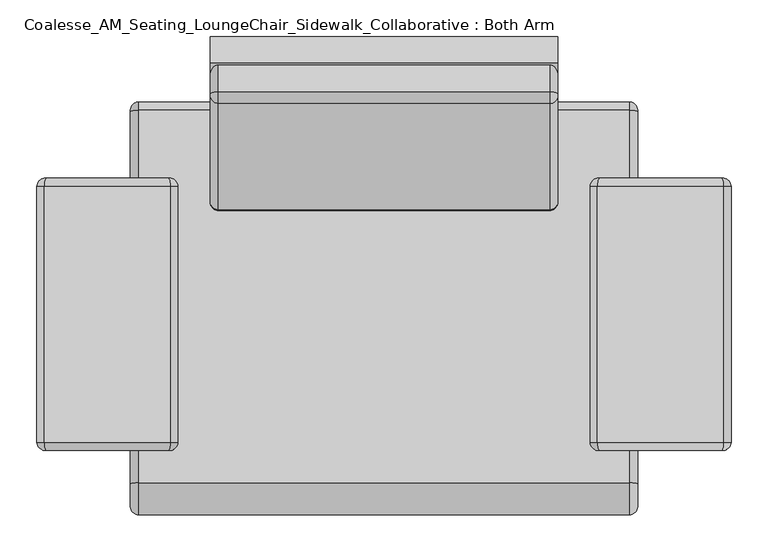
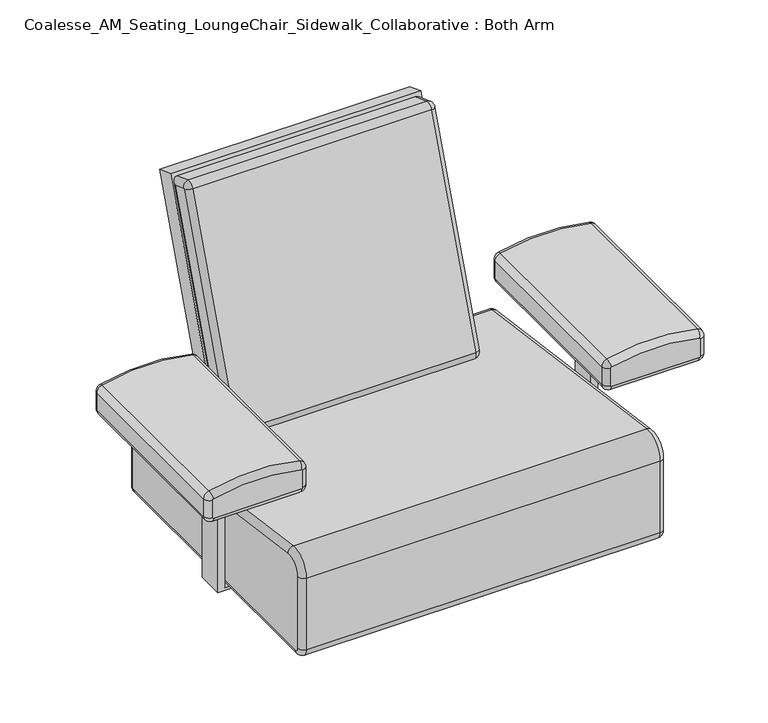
"""IFC4 building model written with IfcOpenShell, lengths in millimetres: furniture geometry, Coalesse_AM_Seating_LoungeChair_Sidewalk_Collaborative : Both Arm."""

from ifc_helpers import new_model, si_unit, point, frame, origin, place, context, project, spatial, polyline, circle_curve, ellipse_curve, trimmed, outline, extrude, source, transform, mapped, element, save
from ifc_brep_helpers import plane_surface, cylinder_surface, revolved_surface, advanced_brep


def coalesse_am_seating_loungechair_sidewalk_collaborative_both_6b42cbdd(model_context):
    return source(origin(), model_context, "Body", "SolidModel", [
        advanced_brep(
        [(122.9089794, 412.7742549, 335.1190448), (122.9089794, 414.1472627, 333.546102), (122.9089794, 414.1472627, 228.6), (122.9089794, 412.5597627, 227.0125), (122.9089794, -114.4902373, 227.0125), (122.9089794, -122.4277373, 234.95), (122.9089794, -122.4277373, 377.1837519), (122.9089794, -91.7938701, 403.9237811), (808.7089794, -91.7938701, 403.9237811), (808.7089794, -122.4277373, 377.1837519), (808.7089794, -122.4277373, 234.95), (808.7089794, -114.4902373, 227.0125), (808.7089794, 412.5597627, 227.0125), (808.7089794, 414.1472627, 228.6), (808.7089794, 414.1472627, 333.546102), (808.7089794, 412.7742549, 335.1190448), (797.5964794, -90.2924248, 414.9343814), (797.5964794, 414.2757002, 346.1296451), (134.0214794, 414.2757002, 346.1296451), (134.0214794, -90.2924248, 414.9343814), (797.5964794, 425.2597627, 333.546102), (134.0214794, 425.2597627, 333.546102), (797.5964794, 425.2597627, 228.6), (134.0214794, 425.2597627, 228.6), (797.5964794, 412.5597627, 215.9), (134.0214794, 412.5597627, 215.9), (797.5964794, -114.4902373, 215.9), (134.0214794, -114.4902373, 215.9), (797.5964794, -133.5402373, 234.95), (134.0214726, -133.5402373, 234.95), (797.5964794, -133.5402373, 377.1837519), (134.0214794, -133.5402373, 377.1837519)],
        [
            (0, 1, circle_curve(frame((122.9089794, 412.5597627, 333.546102), z_axis=(-1.0, 0.0, 0.0), x_axis=(0.0, 0.13511318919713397, 0.9908301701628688)), 1.5875)),
            (1, 2),
            (2, 3, circle_curve(frame((122.9089794, 412.5597627, 228.6), z_axis=(-1.0, 0.0, 0.0), x_axis=(0.0, 1.0, 0.0)), 1.5875)),
            (3, 4),
            (4, 5, circle_curve(frame((122.9089794, -114.4902373, 234.95), z_axis=(-1.0, 0.0, 0.0), x_axis=(0.0, 0.0, -1.0)), 7.9375)),
            (5, 6),
            (6, 7, circle_curve(frame((122.9089794, -95.4402373, 377.1837519), z_axis=(-1.0, 0.0, 0.0), x_axis=(0.0, -1.0, 0.0)), 26.9875)),
            (7, 0),
            (8, 9, circle_curve(frame((808.7089794, -95.4402373, 377.1837519), z_axis=(1.0, 0.0, 0.0), x_axis=(0.0, 0.13511318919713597, 0.9908301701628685)), 26.9875)),
            (9, 10),
            (10, 11, circle_curve(frame((808.7089794, -114.4902373, 234.95), z_axis=(1.0, 0.0, 0.0), x_axis=(0.0, -1.0, 0.0)), 7.9375)),
            (11, 12),
            (12, 13, circle_curve(frame((808.7089794, 412.5597627, 228.6), z_axis=(1.0, 0.0, 0.0), x_axis=(0.0, 0.0, -1.0)), 1.5875)),
            (13, 14),
            (14, 15, circle_curve(frame((808.7089794, 412.5597627, 333.546102), z_axis=(1.0, 0.0, 0.0), x_axis=(0.0, 1.0, 0.0)), 1.5875)),
            (15, 8),
            (16, 17),
            (17, 18),
            (18, 19),
            (19, 16),
            (17, 20, circle_curve(frame((797.5964794, 412.5597627, 333.546102), z_axis=(-1.0, 0.0, 0.0), x_axis=(0.0, -1.0, 0.0)), 12.7)),
            (20, 21),
            (21, 18, circle_curve(frame((134.0214794, 412.5597627, 333.546102), z_axis=(1.0, 0.0, 0.0), x_axis=(0.0, -1.0, 0.0)), 12.7)),
            (20, 22),
            (22, 23),
            (23, 21),
            (22, 24, circle_curve(frame((797.5964794, 412.5597627, 228.6), z_axis=(-1.0, 0.0, 0.0), x_axis=(0.0, -1.0, 0.0)), 12.7)),
            (24, 25),
            (25, 23, circle_curve(frame((134.0214794, 412.5597627, 228.6), z_axis=(1.0, 0.0, 0.0), x_axis=(0.0, -1.0, 0.0)), 12.7)),
            (24, 26),
            (26, 27),
            (27, 25),
            (26, 28, circle_curve(frame((797.5964794, -114.4902373, 234.95), z_axis=(-1.0, 0.0, 0.0), x_axis=(0.0, -1.0, 0.0)), 19.05)),
            (28, 29),
            (29, 27, circle_curve(frame((134.0214794, -114.4902373, 234.95), z_axis=(1.0, 0.0, 0.0), x_axis=(0.0, -1.0, 0.0)), 19.05)),
            (28, 30),
            (30, 31),
            (31, 29),
            (30, 16, circle_curve(frame((797.5964794, -95.4402373, 377.1837519), z_axis=(-1.0, 0.0, 0.0), x_axis=(0.0, -1.0, 0.0)), 38.1)),
            (19, 31, circle_curve(frame((134.0214794, -95.4402373, 377.1837519), z_axis=(1.0, 0.0, 0.0), x_axis=(0.0, -1.0, 0.0)), 38.1)),
            (30, 9, circle_curve(frame((797.5964794, -122.4277373, 377.1837519), z_axis=(0.0, 0.0, 0.9999999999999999), x_axis=(0.0, -0.9999999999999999, 0.0)), 11.1125)),
            (8, 16, circle_curve(frame((797.5964794, -91.7938701, 403.9237811), z_axis=(0.0, -0.9908301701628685, 0.13511318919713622), x_axis=(0.0, 0.13511318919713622, 0.9908301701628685)), 11.1125)),
            (28, 10, circle_curve(frame((797.5964794, -122.4277373, 234.95), z_axis=(0.0, 0.0, 1.0), x_axis=(0.0, -1.0, 0.0)), 11.1125)),
            (26, 11, circle_curve(frame((797.5964794, -114.4902373, 227.0125), z_axis=(0.0, -1.0, 0.0), x_axis=(0.0, 0.0, -1.0)), 11.1125)),
            (24, 12, circle_curve(frame((797.5964794, 412.5597627, 227.0125), z_axis=(0.0, -1.0, 0.0), x_axis=(0.0, 0.0, -1.0)), 11.1125)),
            (22, 13, circle_curve(frame((797.5964794, 414.1472627, 228.6), z_axis=(0.0, 0.0, -1.0), x_axis=(0.0, 1.0, 0.0)), 11.1125)),
            (20, 14, circle_curve(frame((797.5964794, 414.1472627, 333.546102), z_axis=(0.0, 0.0, -1.0), x_axis=(0.0, 1.0, 0.0)), 11.1125)),
            (17, 15, circle_curve(frame((797.5964794, 412.7742549, 335.1190448), z_axis=(0.0, 0.9908301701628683, -0.13511318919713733), x_axis=(0.0, 0.13511318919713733, 0.9908301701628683)), 11.1125)),
            (21, 1, circle_curve(frame((134.0214794, 414.1472627, 333.546102), z_axis=(0.0, 0.0, 1.0), x_axis=(0.0, -1.0, 0.0)), 11.1125)),
            (0, 18, circle_curve(frame((134.0214794, 412.7742549, 335.1190448), z_axis=(0.0, 0.9908301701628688, -0.13511318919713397), x_axis=(0.0, -0.13511318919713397, -0.9908301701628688)), 11.1125)),
            (23, 2, circle_curve(frame((134.0214794, 414.1472627, 228.6), z_axis=(0.0, 0.0, 1.0), x_axis=(0.0, -1.0, 0.0)), 11.1125)),
            (25, 3, circle_curve(frame((134.0214794, 412.5597627, 227.0125), z_axis=(0.0, 1.0, 0.0), x_axis=(0.0, 0.0, 1.0)), 11.1125)),
            (27, 4, circle_curve(frame((134.0214794, -114.4902373, 227.0125), z_axis=(0.0, 1.0, 0.0), x_axis=(0.0, 0.0, 1.0)), 11.1125)),
            (29, 5, circle_curve(frame((134.0214794, -122.4277373, 234.95), z_axis=(0.0, 0.0, -1.0), x_axis=(0.0, 1.0, 0.0)), 11.1125)),
            (31, 6, circle_curve(frame((134.0214794, -122.4277373, 377.1837519), z_axis=(0.0, 0.0, -1.0), x_axis=(0.0, 1.0, 0.0)), 11.1125)),
            (19, 7, circle_curve(frame((134.0214794, -91.7938701, 403.9237811), z_axis=(0.0, -0.9908301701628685, 0.1351131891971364), x_axis=(0.0, -0.1351131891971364, -0.9908301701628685)), 11.1125)),
        ],
        [
            plane_surface(frame((122.9089794, 564.9597627, 325.5818208), z_axis=(-1.0000000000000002, 0.0, 0.0), x_axis=(0.0, 0.9908301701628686, -0.1351131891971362))),
            plane_surface(frame((808.7089794, 564.9597627, 325.5818208), z_axis=(1.0000000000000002, 0.0, 0.0), x_axis=(0.0, -0.9908301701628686, 0.1351131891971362))),
            plane_surface(frame((122.9089794, -90.2924248, 414.9343814), z_axis=(0.0, 0.1351131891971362, 0.9908301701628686), x_axis=(1.0, 0.0, 0.0))),
            cylinder_surface(frame((808.7089794, 412.5597627, 333.546102), z_axis=(-1.0, 0.0, 0.0), x_axis=(0.0, -1.0, 0.0)), 12.7),
            plane_surface(frame((122.9089794, 425.2597627, 333.546102), z_axis=(0.0, 1.0, 0.0), x_axis=(1.0, 0.0, 0.0))),
            cylinder_surface(frame((808.7089794, 412.5597627, 228.6), z_axis=(-1.0, 0.0, 0.0), x_axis=(0.0, -1.0, 0.0)), 12.7),
            plane_surface(frame((122.9089794, 412.5597627, 215.9), z_axis=(0.0, 0.0, -1.0), x_axis=(1.0, 0.0, 0.0))),
            cylinder_surface(frame((808.7089794, -114.4902373, 234.95), z_axis=(-1.0, 0.0, 0.0), x_axis=(0.0, -1.0, 0.0)), 19.05),
            plane_surface(frame((122.9089794, -133.5402373, 234.95), z_axis=(0.0, -1.0, 0.0), x_axis=(1.0, 0.0, 0.0))),
            cylinder_surface(frame((808.7089794, -95.4402373, 377.1837519), z_axis=(-1.0, 0.0, 0.0), x_axis=(0.0, -1.0, 0.0)), 38.1),
            revolved_surface(trimmed(ellipse_curve(frame((797.5964794, -91.7938701, 403.9237811), z_axis=(0.0, 0.9908301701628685, -0.13511318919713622), x_axis=(0.0, 0.13511318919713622, 0.9908301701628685)), 11.1125, 11.1125), [point((797.5964794, -90.2924248, 414.9343814))], [point((808.7089794, -91.7938701, 403.9237811))], True, "CARTESIAN"), (808.7089794, -95.4402373, 377.1837519), (1.0, 0.0, 0.0)),
            cylinder_surface(frame((797.5964794, -122.4277373, 377.1837519), z_axis=(0.0, 0.0, -1.0), x_axis=(0.0, -1.0, 0.0)), 11.1125),
            revolved_surface(trimmed(ellipse_curve(frame((797.5964794, -122.4277373, 234.95), z_axis=(0.0, 0.0, 1.0), x_axis=(0.0, -1.0, 0.0)), 11.1125, 11.1125), [point((797.5964794, -133.5402373, 234.95))], [point((808.7089794, -122.4277373, 234.95))], True, "CARTESIAN"), (808.7089794, -114.4902373, 234.95), (1.0, 0.0, 0.0)),
            cylinder_surface(frame((797.5964794, -114.4902373, 227.0125), z_axis=(0.0, 1.0, 0.0), x_axis=(0.0, 0.0, -1.0)), 11.1125),
            revolved_surface(trimmed(ellipse_curve(frame((797.5964794, 412.5597627, 227.0125), z_axis=(0.0, -1.0, 0.0), x_axis=(0.0, 0.0, -1.0)), 11.1125, 11.1125), [point((797.5964794, 412.5597627, 215.9))], [point((808.7089794, 412.5597627, 227.0125))], True, "CARTESIAN"), (808.7089794, 412.5597627, 228.6), (1.0, 0.0, 0.0)),
            cylinder_surface(frame((797.5964794, 414.1472627, 228.6), z_axis=(0.0, 0.0, 1.0), x_axis=(0.0, 1.0, 0.0)), 11.1125),
            revolved_surface(trimmed(ellipse_curve(frame((797.5964794, 414.1472627, 333.546102), z_axis=(0.0, 0.0, -1.0), x_axis=(0.0, 1.0, 0.0)), 11.1125, 11.1125), [point((797.5964794, 425.2597627, 333.546102))], [point((808.7089794, 414.1472627, 333.546102))], True, "CARTESIAN"), (808.7089794, 412.5597627, 333.546102), (1.0, 0.0, 0.0)),
            cylinder_surface(frame((797.5964794, 412.7742549, 335.1190448), z_axis=(0.0, -0.9908301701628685, 0.13511318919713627), x_axis=(0.0, 0.13511318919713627, 0.9908301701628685)), 11.1125),
            revolved_surface(trimmed(ellipse_curve(frame((134.0214794, 412.7742549, 335.1190448), z_axis=(0.0, -0.9908301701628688, 0.13511318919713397), x_axis=(0.0, -0.13511318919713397, -0.9908301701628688)), 11.1125, 11.1125), [point((134.0214794, 414.2757002, 346.1296451))], [point((122.9089794, 412.7742549, 335.1190448))], True, "CARTESIAN"), (122.9089794, 412.5597627, 333.546102), (-1.0, 0.0, 0.0)),
            cylinder_surface(frame((134.0214794, 414.1472627, 333.546102), z_axis=(0.0, 0.0, -1.0), x_axis=(0.0, -1.0, 0.0)), 11.1125),
            revolved_surface(trimmed(ellipse_curve(frame((134.0214794, 414.1472627, 228.6), z_axis=(0.0, 0.0, 1.0), x_axis=(0.0, -1.0, 0.0)), 11.1125, 11.1125), [point((134.0214794, 425.2597627, 228.6))], [point((122.9089794, 414.1472627, 228.6))], True, "CARTESIAN"), (122.9089794, 412.5597627, 228.6), (-1.0, 0.0, 0.0)),
            cylinder_surface(frame((134.0214794, 412.5597627, 227.0125), z_axis=(0.0, -1.0, 0.0), x_axis=(0.0, 0.0, 1.0)), 11.1125),
            revolved_surface(trimmed(ellipse_curve(frame((134.0214794, -114.4902373, 227.0125), z_axis=(0.0, 1.0, 0.0), x_axis=(0.0, 0.0, 1.0)), 11.1125, 11.1125), [point((134.0214794, -114.4902373, 215.9))], [point((122.9089794, -114.4902373, 227.0125))], True, "CARTESIAN"), (122.9089794, -114.4902373, 234.95), (-1.0, 0.0, 0.0)),
            cylinder_surface(frame((134.0214794, -122.4277373, 234.95), z_axis=(0.0, 0.0, 1.0), x_axis=(0.0, 1.0, 0.0)), 11.1125),
            revolved_surface(trimmed(ellipse_curve(frame((134.0214794, -122.4277373, 377.1837519), z_axis=(0.0, 0.0, -1.0), x_axis=(0.0, 1.0, 0.0)), 11.1125, 11.1125), [point((134.0214794, -133.5402373, 377.1837519))], [point((122.9089794, -122.4277373, 377.1837519))], True, "CARTESIAN"), (122.9089794, -95.4402373, 377.1837519), (-1.0, 0.0, 0.0)),
            cylinder_surface(frame((134.0214794, -91.7938701, 403.9237811), z_axis=(0.0, 0.9908301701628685, -0.1351131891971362), x_axis=(0.0, -0.1351131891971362, -0.9908301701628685)), 11.1125),
        ],
        [
            (0, [[1, 2, 3, 4, 5, 6, 7, 8]]),
            (1, [[9, 10, 11, 12, 13, 14, 15, 16]]),
            (2, [[17, 18, 19, 20]]),
            (3, [[21, 22, 23, -18]]),
            (4, [[24, 25, 26, -22]]),
            (5, [[27, 28, 29, -25]]),
            (6, [[30, 31, 32, -28]]),
            (7, [[33, 34, 35, -31]]),
            (8, [[36, 37, 38, -34]]),
            (9, [[39, -20, 40, -37]]),
            (10, [[41, -9, 42, -39]]),
            (11, [[-41, -36, 43, -10]]),
            (12, [[-43, -33, 44, -11]]),
            (13, [[-44, -30, 45, -12]]),
            (14, [[-45, -27, 46, -13]]),
            (15, [[-46, -24, 47, -14]]),
            (16, [[-47, -21, 48, -15]]),
            (17, [[-42, -16, -48, -17]]),
            (18, [[49, -1, 50, -23]]),
            (19, [[-49, -26, 51, -2]]),
            (20, [[-51, -29, 52, -3]]),
            (21, [[-52, -32, 53, -4]]),
            (22, [[-53, -35, 54, -5]]),
            (23, [[-54, -38, 55, -6]]),
            (24, [[-55, -40, 56, -7]]),
            (25, [[-50, -8, -56, -19]]),
        ],
    ),
        advanced_brep(
        [(923.9725321, -46.3480901, 523.5679776), (922.7611862, -46.3480901, 525.1102695), (756.908878, -46.3480901, 525.1102695), (755.6975321, -46.3480901, 523.5679776), (755.6975321, -46.3480901, 488.95), (757.2850321, -46.3480901, 487.3625), (922.3850321, -46.3480901, 487.3625), (923.9725321, -46.3480901, 488.95), (755.6975321, 321.9519099, 523.5679776), (756.908878, 321.9519099, 525.1102695), (922.7611862, 321.9519099, 525.1102695), (923.9725321, 321.9519099, 523.5679776), (923.9725321, 321.9519099, 488.95), (922.3850321, 321.9519099, 487.3625), (757.2850321, 321.9519099, 487.3625), (755.6975321, 321.9519099, 488.95), (922.3850321, -35.2355901, 476.25), (757.2850321, -35.2355901, 476.25), (757.2850321, 310.8394099, 476.25), (922.3850321, 310.8394099, 476.25), (935.0850321, -35.2355901, 488.95), (935.0850321, 310.8394099, 488.95), (935.0850321, -35.2355901, 523.5679776), (935.0850321, 310.8394099, 523.5679776), (925.394265, -35.2355901, 535.9063129), (925.394265, 310.8394099, 535.9063129), (754.2757993, -35.2355901, 535.9063129), (754.2757993, 310.8394099, 535.9063129), (744.5850321, -35.2355901, 523.5679776), (744.5850321, 310.8394099, 523.5679776), (744.5850321, -35.2355901, 488.95), (744.5850321, 310.8394099, 488.95)],
        [
            (0, 1, circle_curve(frame((922.3850321, -46.3480901, 523.5679776), z_axis=(0.0, -1.0, 0.0), x_axis=(0.23694746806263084, 0.0, 0.9715224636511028)), 1.5875)),
            (1, 2, circle_curve(frame((839.8350321, -46.3480901, 185.0997929), z_axis=(0.0, -1.0, 0.0), x_axis=(-0.23694746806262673, 0.0, 0.971522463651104)), 349.9769581)),
            (2, 3, circle_curve(frame((757.2850321, -46.3480901, 523.5679776), z_axis=(0.0, -1.0, 0.0), x_axis=(-1.0, 0.0, 0.0)), 1.5875)),
            (3, 4),
            (4, 5, circle_curve(frame((757.2850321, -46.3480901, 488.95), z_axis=(0.0, -1.0, 0.0), x_axis=(0.0, 0.0, -1.0)), 1.5875)),
            (5, 6),
            (6, 7, circle_curve(frame((922.3850321, -46.3480901, 488.95), z_axis=(0.0, -1.0, 0.0), x_axis=(1.0, 0.0, 0.0)), 1.5875)),
            (7, 0),
            (8, 9, circle_curve(frame((757.2850321, 321.9519099, 523.5679776), z_axis=(0.0, 1.0, 0.0), x_axis=(-0.2369474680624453, 0.0, 0.9715224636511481)), 1.5875)),
            (9, 10, circle_curve(frame((839.8350321, 321.9519099, 185.0997929), z_axis=(0.0, 1.0, 0.0), x_axis=(0.23694746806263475, 0.0, 0.971522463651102)), 349.9769581)),
            (10, 11, circle_curve(frame((922.3850321, 321.9519099, 523.5679776), z_axis=(0.0, 1.0, 0.0), x_axis=(1.0, 0.0, 0.0)), 1.5875)),
            (11, 12),
            (12, 13, circle_curve(frame((922.3850321, 321.9519099, 488.95), z_axis=(0.0, 1.0, 0.0), x_axis=(0.0, 0.0, -1.0)), 1.5875)),
            (13, 14),
            (14, 15, circle_curve(frame((757.2850321, 321.9519099, 488.95), z_axis=(0.0, 1.0, 0.0), x_axis=(-1.0, 0.0, 0.0)), 1.5875)),
            (15, 8),
            (16, 17),
            (17, 18),
            (18, 19),
            (19, 16),
            (20, 16, circle_curve(frame((922.3850321, -35.2355901, 488.95), z_axis=(0.0, 1.0, 0.0), x_axis=(-1.0, 0.0, 0.0)), 12.7)),
            (19, 21, circle_curve(frame((922.3850321, 310.8394099, 488.95), z_axis=(0.0, -1.0, 0.0), x_axis=(-1.0, 0.0, 0.0)), 12.7)),
            (21, 20),
            (22, 20),
            (21, 23),
            (23, 22),
            (24, 22, circle_curve(frame((922.3850321, -35.2355901, 523.5679776), z_axis=(0.0, 1.0, 0.0), x_axis=(-1.0, 0.0, 0.0)), 12.7)),
            (23, 25, circle_curve(frame((922.3850321, 310.8394099, 523.5679776), z_axis=(0.0, -1.0, 0.0), x_axis=(-1.0, 0.0, 0.0)), 12.7)),
            (25, 24),
            (26, 24, circle_curve(frame((839.8350321, -35.2355901, 185.0997929), z_axis=(0.0, 1.0, 0.0), x_axis=(-1.0, 0.0, 0.0)), 361.0894581)),
            (25, 27, circle_curve(frame((839.8350321, 310.8394099, 185.0997929), z_axis=(0.0, -1.0, 0.0), x_axis=(-1.0, 0.0, 0.0)), 361.0894581)),
            (27, 26),
            (28, 26, circle_curve(frame((757.2850321, -35.2355901, 523.5679776), z_axis=(0.0, 1.0, 0.0), x_axis=(-1.0, 0.0, 0.0)), 12.7)),
            (27, 29, circle_curve(frame((757.2850321, 310.8394099, 523.5679776), z_axis=(0.0, -1.0, 0.0), x_axis=(-1.0, 0.0, 0.0)), 12.7)),
            (29, 28),
            (30, 28),
            (29, 31),
            (31, 30),
            (17, 30, circle_curve(frame((757.2850321, -35.2355901, 488.95), z_axis=(0.0, 1.0, 0.0), x_axis=(-1.0, 0.0, 0.0)), 12.7)),
            (31, 18, circle_curve(frame((757.2850321, 310.8394099, 488.95), z_axis=(0.0, -1.0, 0.0), x_axis=(-1.0, 0.0, 0.0)), 12.7)),
            (0, 22, circle_curve(frame((923.9725321, -35.2355901, 523.5679776), z_axis=(0.0, 0.0, 1.0), x_axis=(-1.0, 0.0, 0.0)), 11.1125)),
            (24, 1, circle_curve(frame((922.7611862, -35.2355901, 525.1102695), z_axis=(0.9715224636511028, 0.0, -0.23694746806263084), x_axis=(-0.23694746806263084, 0.0, -0.9715224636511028)), 11.1125)),
            (7, 20, circle_curve(frame((923.9725321, -35.2355901, 488.95), z_axis=(0.0, 0.0, 1.0), x_axis=(-1.0, 0.0, 0.0)), 11.1125)),
            (6, 16, circle_curve(frame((922.3850321, -35.2355901, 487.3625), z_axis=(1.0, 0.0, 0.0), x_axis=(0.0, 0.0, 1.0)), 11.1125)),
            (5, 17, circle_curve(frame((757.2850321, -35.2355901, 487.3625), z_axis=(1.0, 0.0, 0.0), x_axis=(0.0, 0.0, 1.0)), 11.1125)),
            (4, 30, circle_curve(frame((755.6975321, -35.2355901, 488.95), z_axis=(0.0, 0.0, -1.0), x_axis=(1.0, 0.0, 0.0)), 11.1125)),
            (3, 28, circle_curve(frame((755.6975321, -35.2355901, 523.5679776), z_axis=(0.0, 0.0, -1.0), x_axis=(1.0, 0.0, 0.0)), 11.1125)),
            (2, 26, circle_curve(frame((756.908878, -35.2355901, 525.1102695), z_axis=(-0.9715224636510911, 0.0, -0.23694746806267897), x_axis=(0.23694746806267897, 0.0, -0.9715224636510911)), 11.1125)),
            (8, 29, circle_curve(frame((755.6975321, 310.8394099, 523.5679776), z_axis=(0.0, 0.0, 1.0), x_axis=(-1.0, 0.0, 0.0)), 11.1125)),
            (27, 9, circle_curve(frame((756.908878, 310.8394099, 525.1102695), z_axis=(-0.9715224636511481, 0.0, -0.23694746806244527), x_axis=(-0.23694746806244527, 0.0, 0.9715224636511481)), 11.1125)),
            (15, 31, circle_curve(frame((755.6975321, 310.8394099, 488.95), z_axis=(0.0, 0.0, 1.0), x_axis=(-1.0, 0.0, 0.0)), 11.1125)),
            (14, 18, circle_curve(frame((757.2850321, 310.8394099, 487.3625), z_axis=(-1.0, 0.0, 0.0), x_axis=(0.0, 0.0, -1.0)), 11.1125)),
            (13, 19, circle_curve(frame((922.3850321, 310.8394099, 487.3625), z_axis=(-1.0, 0.0, 0.0), x_axis=(0.0, 0.0, -1.0)), 11.1125)),
            (12, 21, circle_curve(frame((923.9725321, 310.8394099, 488.95), z_axis=(0.0, 0.0, -1.0), x_axis=(1.0, 0.0, 0.0)), 11.1125)),
            (11, 23, circle_curve(frame((923.9725321, 310.8394099, 523.5679776), z_axis=(0.0, 0.0, -1.0), x_axis=(1.0, 0.0, 0.0)), 11.1125)),
            (10, 25, circle_curve(frame((922.7611862, 310.8394099, 525.1102695), z_axis=(0.9715224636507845, 0.0, -0.236947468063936), x_axis=(0.236947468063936, 0.0, 0.9715224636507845)), 11.1125)),
        ],
        [
            plane_surface(frame((935.0850321, -46.3480901, 476.25), z_axis=(0.0, -1.0, 0.0), x_axis=(1.0, 0.0, 0.0))),
            plane_surface(frame((935.0850321, 321.9519099, 476.25), z_axis=(0.0, 1.0, 0.0), x_axis=(-1.0, 0.0, 0.0))),
            plane_surface(frame((757.2850321, -46.3480901, 476.25), z_axis=(0.0, 0.0, -1.0), x_axis=(0.0, 1.0, 0.0))),
            cylinder_surface(frame((922.3850321, 321.9519099, 488.95), z_axis=(0.0, -1.0, 0.0), x_axis=(-1.0, 0.0, 0.0)), 12.7),
            plane_surface(frame((935.0850321, -46.3480901, 488.95), z_axis=(1.0, 0.0, 0.0), x_axis=(0.0, 1.0, 0.0))),
            cylinder_surface(frame((922.3850321, 321.9519099, 523.5679776), z_axis=(0.0, -1.0, 0.0), x_axis=(-1.0, 0.0, 0.0)), 12.7),
            cylinder_surface(frame((839.8350321, 321.9519099, 185.0997929), z_axis=(0.0, -1.0, 0.0), x_axis=(-1.0, 0.0, 0.0)), 361.0894581),
            cylinder_surface(frame((757.2850321, 321.9519099, 523.5679776), z_axis=(0.0, -1.0, 0.0), x_axis=(-1.0, 0.0, 0.0)), 12.7),
            plane_surface(frame((744.5850321, -46.3480901, 523.5679776), z_axis=(-1.0, 0.0, 0.0), x_axis=(0.0, 1.0, 0.0))),
            cylinder_surface(frame((757.2850321, 321.9519099, 488.95), z_axis=(0.0, -1.0, 0.0), x_axis=(-1.0, 0.0, 0.0)), 12.7),
            revolved_surface(trimmed(ellipse_curve(frame((922.7611862, -35.2355901, 525.1102695), z_axis=(-0.9715224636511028, 0.0, 0.23694746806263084), x_axis=(-0.23694746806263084, 0.0, -0.9715224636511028)), 11.1125, 11.1125), [point((922.7611862, -46.3480901, 525.1102695))], [point((925.394265, -35.2355901, 535.9063129))], True, "CARTESIAN"), (922.3850321, -46.3480901, 523.5679776), (0.0, 1.0, 0.0)),
            cylinder_surface(frame((923.9725321, -35.2355901, 523.5679776), z_axis=(0.0, 0.0, -1.0), x_axis=(-1.0, 0.0, 0.0)), 11.1125),
            revolved_surface(trimmed(ellipse_curve(frame((923.9725321, -35.2355901, 488.95), z_axis=(0.0, 0.0, 1.0), x_axis=(-1.0, 0.0, 0.0)), 11.1125, 11.1125), [point((923.9725321, -46.3480901, 488.95))], [point((935.0850321, -35.2355901, 488.95))], True, "CARTESIAN"), (922.3850321, -46.3480901, 488.95), (0.0, 1.0, 0.0)),
            cylinder_surface(frame((922.3850321, -35.2355901, 487.3625), z_axis=(-1.0, 0.0, 0.0), x_axis=(0.0, 0.0, 1.0)), 11.1125),
            revolved_surface(trimmed(ellipse_curve(frame((757.2850321, -35.2355901, 487.3625), z_axis=(1.0, 0.0, 0.0), x_axis=(0.0, 0.0, 1.0)), 11.1125, 11.1125), [point((757.2850321, -46.3480901, 487.3625))], [point((757.2850321, -35.2355901, 476.25))], True, "CARTESIAN"), (757.2850321, -46.3480901, 488.95), (0.0, 1.0, 0.0)),
            cylinder_surface(frame((755.6975321, -35.2355901, 488.95), z_axis=(0.0, 0.0, 1.0), x_axis=(1.0, 0.0, 0.0)), 11.1125),
            revolved_surface(trimmed(ellipse_curve(frame((755.6975321, -35.2355901, 523.5679776), z_axis=(0.0, 0.0, -1.0), x_axis=(1.0, 0.0, 0.0)), 11.1125, 11.1125), [point((755.6975321, -46.3480901, 523.5679776))], [point((744.5850321, -35.2355901, 523.5679776))], True, "CARTESIAN"), (757.2850321, -46.3480901, 523.5679776), (0.0, 1.0, 0.0)),
            revolved_surface(trimmed(ellipse_curve(frame((756.908878, -35.2355901, 525.1102695), z_axis=(-0.971522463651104, 0.0, -0.23694746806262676), x_axis=(0.23694746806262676, 0.0, -0.971522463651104)), 11.1125, 11.1125), [point((756.908878, -46.3480901, 525.1102695))], [point((754.2757993, -35.2355901, 535.9063129))], True, "CARTESIAN"), (839.8350321, -46.3480901, 185.0997929), (0.0, 1.0, 0.0)),
            revolved_surface(trimmed(ellipse_curve(frame((756.908878, 310.8394099, 525.1102695), z_axis=(0.9715224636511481, 0.0, 0.23694746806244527), x_axis=(-0.23694746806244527, 0.0, 0.9715224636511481)), 11.1125, 11.1125), [point((756.908878, 321.9519099, 525.1102695))], [point((754.2757993, 310.8394099, 535.9063129))], True, "CARTESIAN"), (757.2850321, 321.9519099, 523.5679776), (0.0, -1.0, 0.0)),
            cylinder_surface(frame((755.6975321, 310.8394099, 523.5679776), z_axis=(0.0, 0.0, -1.0), x_axis=(-1.0, 0.0, 0.0)), 11.1125),
            revolved_surface(trimmed(ellipse_curve(frame((755.6975321, 310.8394099, 488.95), z_axis=(0.0, 0.0, 1.0), x_axis=(-1.0, 0.0, 0.0)), 11.1125, 11.1125), [point((755.6975321, 321.9519099, 488.95))], [point((744.5850321, 310.8394099, 488.95))], True, "CARTESIAN"), (757.2850321, 321.9519099, 488.95), (0.0, -1.0, 0.0)),
            cylinder_surface(frame((757.2850321, 310.8394099, 487.3625), z_axis=(1.0, 0.0, 0.0), x_axis=(0.0, 0.0, -1.0)), 11.1125),
            revolved_surface(trimmed(ellipse_curve(frame((922.3850321, 310.8394099, 487.3625), z_axis=(-1.0, 0.0, 0.0), x_axis=(0.0, 0.0, -1.0)), 11.1125, 11.1125), [point((922.3850321, 321.9519099, 487.3625))], [point((922.3850321, 310.8394099, 476.25))], True, "CARTESIAN"), (922.3850321, 321.9519099, 488.95), (0.0, -1.0, 0.0)),
            cylinder_surface(frame((923.9725321, 310.8394099, 488.95), z_axis=(0.0, 0.0, 1.0), x_axis=(1.0, 0.0, 0.0)), 11.1125),
            revolved_surface(trimmed(ellipse_curve(frame((923.9725321, 310.8394099, 523.5679776), z_axis=(0.0, 0.0, -1.0), x_axis=(1.0, 0.0, 0.0)), 11.1125, 11.1125), [point((923.9725321, 321.9519099, 523.5679776))], [point((935.0850321, 310.8394099, 523.5679776))], True, "CARTESIAN"), (922.3850321, 321.9519099, 523.5679776), (0.0, -1.0, 0.0)),
            revolved_surface(trimmed(ellipse_curve(frame((922.7611862, 310.8394099, 525.1102695), z_axis=(0.971522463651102, 0.0, -0.2369474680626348), x_axis=(0.2369474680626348, 0.0, 0.971522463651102)), 11.1125, 11.1125), [point((922.7611862, 321.9519099, 525.1102695))], [point((925.394265, 310.8394099, 535.9063129))], True, "CARTESIAN"), (839.8350321, 321.9519099, 185.0997929), (0.0, -1.0, 0.0)),
        ],
        [
            (0, [[1, 2, 3, 4, 5, 6, 7, 8]]),
            (1, [[9, 10, 11, 12, 13, 14, 15, 16]]),
            (2, [[17, 18, 19, 20]]),
            (3, [[21, -20, 22, 23]]),
            (4, [[24, -23, 25, 26]]),
            (5, [[27, -26, 28, 29]]),
            (6, [[30, -29, 31, 32]]),
            (7, [[33, -32, 34, 35]]),
            (8, [[36, -35, 37, 38]]),
            (9, [[39, -38, 40, -18]]),
            (10, [[41, -27, 42, -1]]),
            (11, [[-41, -8, 43, -24]]),
            (12, [[-43, -7, 44, -21]]),
            (13, [[-44, -6, 45, -17]]),
            (14, [[-45, -5, 46, -39]]),
            (15, [[-46, -4, 47, -36]]),
            (16, [[-47, -3, 48, -33]]),
            (17, [[-42, -30, -48, -2]]),
            (18, [[49, -34, 50, -9]]),
            (19, [[-49, -16, 51, -37]]),
            (20, [[-51, -15, 52, -40]]),
            (21, [[-52, -14, 53, -19]]),
            (22, [[-53, -13, 54, -22]]),
            (23, [[-54, -12, 55, -25]]),
            (24, [[-55, -11, 56, -28]]),
            (25, [[-50, -31, -56, -10]]),
        ],
    ),
        extrude(outline(polyline([(207.2866207, 822.6014668), (476.25, 822.6014668), (476.25, 809.9014668), (213.6366207, 809.9014668), (213.6366207, 733.7014668), (207.2866207, 733.7014668), (207.2866207, 822.6014668)])), frame((0.0, 112.4019099, 0.0), z_axis=(0.0, 1.0, 0.0), x_axis=(0.0, 0.0, 1.0)), (0.0, 0.0, 1.0), 50.8),
        advanced_brep(
        [(8.8567727, -46.3480901, 525.1102695), (7.6454268, -46.3480901, 523.5679776), (7.6454268, -46.3480901, 488.95), (9.2329268, -46.3480901, 487.3625), (174.3329268, -46.3480901, 487.3625), (175.9204268, -46.3480901, 488.95), (175.9204268, -46.3480901, 523.5679776), (174.7090809, -46.3480901, 525.1102695), (174.7090809, 321.9519099, 525.1102695), (175.9204268, 321.9519099, 523.5679776), (175.9204268, 321.9519099, 488.95), (174.3329268, 321.9519099, 487.3625), (9.2329268, 321.9519099, 487.3625), (7.6454268, 321.9519099, 488.95), (7.6454268, 321.9519099, 523.5679776), (8.8567727, 321.9519099, 525.1102695), (174.3329268, 310.8394099, 476.25), (187.0329268, 310.8394099, 488.95), (187.0329268, -35.2355901, 488.95), (174.3329268, -35.2355901, 476.25), (187.0329268, 310.8394099, 523.5679776), (187.0329268, -35.2355901, 523.5679776), (177.3421596, 310.8394099, 535.9063129), (177.3421596, -35.2355901, 535.9063129), (6.2236939, 310.8394099, 535.9063129), (6.2236939, -35.2355901, 535.9063129), (-3.4670732, 310.8394099, 523.5679776), (-3.4670732, -35.2355901, 523.5679776), (-3.4670732, 310.8394099, 488.95), (-3.4670732, -35.2355901, 488.95), (9.2329268, 310.8394099, 476.25), (9.2329268, -35.2355901, 476.25)],
        [
            (0, 1, circle_curve(frame((9.2329268, -46.3480901, 523.5679776), z_axis=(0.0, -1.0, 0.0), x_axis=(-0.23694746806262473, 0.0, 0.9715224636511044)), 1.5875)),
            (1, 2),
            (2, 3, circle_curve(frame((9.2329268, -46.3480901, 488.95), z_axis=(0.0, -1.0, 0.0), x_axis=(-1.0, 0.0, 0.0)), 1.5875)),
            (3, 4),
            (4, 5, circle_curve(frame((174.3329268, -46.3480901, 488.95), z_axis=(0.0, -1.0, 0.0), x_axis=(0.0, 0.0, -1.0)), 1.5875)),
            (5, 6),
            (6, 7, circle_curve(frame((174.3329268, -46.3480901, 523.5679776), z_axis=(0.0, -1.0, 0.0), x_axis=(1.0, 0.0, 0.0)), 1.5875)),
            (7, 0, circle_curve(frame((91.7829268, -46.3480901, 185.0997929), z_axis=(0.0, -1.0, 0.0), x_axis=(0.2369474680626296, 0.0, 0.9715224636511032)), 349.9769581)),
            (8, 9, circle_curve(frame((174.3329268, 321.9519099, 523.5679776), z_axis=(0.0, 1.0, 0.0), x_axis=(0.23694746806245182, 0.0, 0.9715224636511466)), 1.5875)),
            (9, 10),
            (10, 11, circle_curve(frame((174.3329268, 321.9519099, 488.95), z_axis=(0.0, 1.0, 0.0), x_axis=(1.0, 0.0, 0.0)), 1.5875)),
            (11, 12),
            (12, 13, circle_curve(frame((9.2329268, 321.9519099, 488.95), z_axis=(0.0, 1.0, 0.0), x_axis=(0.0, 0.0, -1.0)), 1.5875)),
            (13, 14),
            (14, 15, circle_curve(frame((9.2329268, 321.9519099, 523.5679776), z_axis=(0.0, 1.0, 0.0), x_axis=(-1.0, 0.0, 0.0)), 1.5875)),
            (15, 8, circle_curve(frame((91.7829268, 321.9519099, 185.0997929), z_axis=(0.0, 1.0, 0.0), x_axis=(-0.23694746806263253, 0.0, 0.9715224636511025)), 349.9769581)),
            (16, 17, circle_curve(frame((174.3329268, 310.8394099, 488.95), z_axis=(0.0, -1.0, 0.0), x_axis=(1.0, 0.0, 0.0)), 12.7)),
            (17, 18),
            (18, 19, circle_curve(frame((174.3329268, -35.2355901, 488.95), z_axis=(0.0, 1.0, 0.0), x_axis=(1.0, 0.0, 0.0)), 12.7)),
            (19, 16),
            (17, 20),
            (20, 21),
            (21, 18),
            (20, 22, circle_curve(frame((174.3329268, 310.8394099, 523.5679776), z_axis=(0.0, -1.0, 0.0), x_axis=(1.0, 0.0, 0.0)), 12.7)),
            (22, 23),
            (23, 21, circle_curve(frame((174.3329268, -35.2355901, 523.5679776), z_axis=(0.0, 1.0, 0.0), x_axis=(1.0, 0.0, 0.0)), 12.7)),
            (22, 24, circle_curve(frame((91.7829268, 310.8394099, 185.0997929), z_axis=(0.0, -1.0, 0.0), x_axis=(1.0, 0.0, 0.0)), 361.0894581)),
            (24, 25),
            (25, 23, circle_curve(frame((91.7829268, -35.2355901, 185.0997929), z_axis=(0.0, 1.0, 0.0), x_axis=(1.0, 0.0, 0.0)), 361.0894581)),
            (24, 26, circle_curve(frame((9.2329268, 310.8394099, 523.5679776), z_axis=(0.0, -1.0, 0.0), x_axis=(1.0, 0.0, 0.0)), 12.7)),
            (26, 27),
            (27, 25, circle_curve(frame((9.2329268, -35.2355901, 523.5679776), z_axis=(0.0, 1.0, 0.0), x_axis=(1.0, 0.0, 0.0)), 12.7)),
            (26, 28),
            (28, 29),
            (29, 27),
            (28, 30, circle_curve(frame((9.2329268, 310.8394099, 488.95), z_axis=(0.0, -1.0, 0.0), x_axis=(1.0, 0.0, 0.0)), 12.7)),
            (30, 31),
            (31, 29, circle_curve(frame((9.2329268, -35.2355901, 488.95), z_axis=(0.0, 1.0, 0.0), x_axis=(1.0, 0.0, 0.0)), 12.7)),
            (30, 16),
            (19, 31),
            (20, 9, circle_curve(frame((175.9204268, 310.8394099, 523.5679776), z_axis=(0.0, 0.0, 1.0), x_axis=(1.0, 0.0, 0.0)), 11.1125)),
            (8, 22, circle_curve(frame((174.7090809, 310.8394099, 525.1102695), z_axis=(0.9715224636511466, 0.0, -0.23694746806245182), x_axis=(0.23694746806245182, 0.0, 0.9715224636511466)), 11.1125)),
            (17, 10, circle_curve(frame((175.9204268, 310.8394099, 488.95), z_axis=(0.0, 0.0, 1.0), x_axis=(1.0, 0.0, 0.0)), 11.1125)),
            (16, 11, circle_curve(frame((174.3329268, 310.8394099, 487.3625), z_axis=(1.0, 0.0, 0.0), x_axis=(0.0, 0.0, -1.0)), 11.1125)),
            (30, 12, circle_curve(frame((9.2329268, 310.8394099, 487.3625), z_axis=(1.0, 0.0, 0.0), x_axis=(0.0, 0.0, -1.0)), 11.1125)),
            (28, 13, circle_curve(frame((7.6454268, 310.8394099, 488.95), z_axis=(0.0, 0.0, -1.0), x_axis=(-1.0, 0.0, 0.0)), 11.1125)),
            (26, 14, circle_curve(frame((7.6454268, 310.8394099, 523.5679776), z_axis=(0.0, 0.0, -1.0), x_axis=(-1.0, 0.0, 0.0)), 11.1125)),
            (24, 15, circle_curve(frame((8.8567727, 310.8394099, 525.1102695), z_axis=(-0.9715224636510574, 0.0, -0.23694746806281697), x_axis=(-0.23694746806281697, 0.0, 0.9715224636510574)), 11.1125)),
            (27, 1, circle_curve(frame((7.6454268, -35.2355901, 523.5679776), z_axis=(0.0, 0.0, 1.0), x_axis=(1.0, 0.0, 0.0)), 11.1125)),
            (0, 25, circle_curve(frame((8.8567727, -35.2355901, 525.1102695), z_axis=(-0.9715224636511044, 0.0, -0.2369474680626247), x_axis=(0.2369474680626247, 0.0, -0.9715224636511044)), 11.1125)),
            (29, 2, circle_curve(frame((7.6454268, -35.2355901, 488.95), z_axis=(0.0, 0.0, 1.0), x_axis=(1.0, 0.0, 0.0)), 11.1125)),
            (31, 3, circle_curve(frame((9.2329268, -35.2355901, 487.3625), z_axis=(-1.0, 0.0, 0.0), x_axis=(0.0, 0.0, 1.0)), 11.1125)),
            (19, 4, circle_curve(frame((174.3329268, -35.2355901, 487.3625), z_axis=(-1.0, 0.0, 0.0), x_axis=(0.0, 0.0, 1.0)), 11.1125)),
            (18, 5, circle_curve(frame((175.9204268, -35.2355901, 488.95), z_axis=(0.0, 0.0, -1.0), x_axis=(-1.0, 0.0, 0.0)), 11.1125)),
            (21, 6, circle_curve(frame((175.9204268, -35.2355901, 523.5679776), z_axis=(0.0, 0.0, -1.0), x_axis=(-1.0, 0.0, 0.0)), 11.1125)),
            (23, 7, circle_curve(frame((174.7090809, -35.2355901, 525.1102695), z_axis=(0.971522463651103, 0.0, -0.23694746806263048), x_axis=(-0.23694746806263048, 0.0, -0.971522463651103)), 11.1125)),
        ],
        [
            plane_surface(frame((187.0329268, -46.3480901, 488.95), z_axis=(0.0, -1.0, 0.0), x_axis=(0.0, 0.0, 1.0))),
            plane_surface(frame((187.0329268, 321.9519099, 488.95), z_axis=(0.0, 1.0, 0.0), x_axis=(0.0, 0.0, -1.0))),
            cylinder_surface(frame((174.3329268, 321.9519099, 488.95), z_axis=(0.0, -1.0, 0.0), x_axis=(1.0, 0.0, 0.0)), 12.7),
            plane_surface(frame((187.0329268, -46.3480901, 488.95), z_axis=(1.0, 0.0, 0.0), x_axis=(0.0, 1.0, 0.0))),
            cylinder_surface(frame((174.3329268, 321.9519099, 523.5679776), z_axis=(0.0, -1.0, 0.0), x_axis=(1.0, 0.0, 0.0)), 12.7),
            cylinder_surface(frame((91.7829268, 321.9519099, 185.0997929), z_axis=(0.0, -1.0, 0.0), x_axis=(1.0, 0.0, 0.0)), 361.0894581),
            cylinder_surface(frame((9.2329268, 321.9519099, 523.5679776), z_axis=(0.0, -1.0, 0.0), x_axis=(1.0, 0.0, 0.0)), 12.7),
            plane_surface(frame((-3.4670732, -46.3480901, 523.5679776), z_axis=(-1.0, 0.0, 0.0), x_axis=(0.0, 1.0, 0.0))),
            cylinder_surface(frame((9.2329268, 321.9519099, 488.95), z_axis=(0.0, -1.0, 0.0), x_axis=(1.0, 0.0, 0.0)), 12.7),
            plane_surface(frame((9.2329268, -46.3480901, 476.25), z_axis=(0.0, 0.0, -1.0), x_axis=(0.0, 1.0, 0.0))),
            revolved_surface(trimmed(ellipse_curve(frame((174.7090809, 310.8394099, 525.1102695), z_axis=(-0.9715224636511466, 0.0, 0.23694746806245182), x_axis=(0.23694746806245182, 0.0, 0.9715224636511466)), 11.1125, 11.1125), [point((177.3421596, 310.8394099, 535.9063129))], [point((174.7090809, 321.9519099, 525.1102695))], True, "CARTESIAN"), (174.3329268, 321.9519099, 523.5679776), (0.0, 1.0, 0.0)),
            cylinder_surface(frame((175.9204268, 310.8394099, 523.5679776), z_axis=(0.0, 0.0, -1.0), x_axis=(1.0, 0.0, 0.0)), 11.1125),
            revolved_surface(trimmed(ellipse_curve(frame((175.9204268, 310.8394099, 488.95), z_axis=(0.0, 0.0, 1.0), x_axis=(1.0, 0.0, 0.0)), 11.1125, 11.1125), [point((187.0329268, 310.8394099, 488.95))], [point((175.9204268, 321.9519099, 488.95))], True, "CARTESIAN"), (174.3329268, 321.9519099, 488.95), (0.0, 1.0, 0.0)),
            cylinder_surface(frame((174.3329268, 310.8394099, 487.3625), z_axis=(-1.0, 0.0, 0.0), x_axis=(0.0, 0.0, -1.0)), 11.1125),
            revolved_surface(trimmed(ellipse_curve(frame((9.2329268, 310.8394099, 487.3625), z_axis=(1.0, 0.0, 0.0), x_axis=(0.0, 0.0, -1.0)), 11.1125, 11.1125), [point((9.2329268, 310.8394099, 476.25))], [point((9.2329268, 321.9519099, 487.3625))], True, "CARTESIAN"), (9.2329268, 321.9519099, 488.95), (0.0, 1.0, 0.0)),
            cylinder_surface(frame((7.6454268, 310.8394099, 488.95), z_axis=(0.0, 0.0, 1.0), x_axis=(-1.0, 0.0, 0.0)), 11.1125),
            revolved_surface(trimmed(ellipse_curve(frame((7.6454268, 310.8394099, 523.5679776), z_axis=(0.0, 0.0, -1.0), x_axis=(-1.0, 0.0, 0.0)), 11.1125, 11.1125), [point((-3.4670732, 310.8394099, 523.5679776))], [point((7.6454268, 321.9519099, 523.5679776))], True, "CARTESIAN"), (9.2329268, 321.9519099, 523.5679776), (0.0, 1.0, 0.0)),
            revolved_surface(trimmed(ellipse_curve(frame((8.8567727, 310.8394099, 525.1102695), z_axis=(-0.9715224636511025, 0.0, -0.23694746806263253), x_axis=(-0.23694746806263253, 0.0, 0.9715224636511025)), 11.1125, 11.1125), [point((6.2236939, 310.8394099, 535.9063129))], [point((8.8567727, 321.9519099, 525.1102695))], True, "CARTESIAN"), (91.7829268, 321.9519099, 185.0997929), (0.0, 1.0, 0.0)),
            revolved_surface(trimmed(ellipse_curve(frame((8.8567727, -35.2355901, 525.1102695), z_axis=(0.9715224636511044, 0.0, 0.2369474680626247), x_axis=(0.2369474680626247, 0.0, -0.9715224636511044)), 11.1125, 11.1125), [point((6.2236939, -35.2355901, 535.9063129))], [point((8.8567727, -46.3480901, 525.1102695))], True, "CARTESIAN"), (9.2329268, -46.3480901, 523.5679776), (0.0, -1.0, 0.0)),
            cylinder_surface(frame((7.6454268, -35.2355901, 523.5679776), z_axis=(0.0, 0.0, -1.0), x_axis=(1.0, 0.0, 0.0)), 11.1125),
            revolved_surface(trimmed(ellipse_curve(frame((7.6454268, -35.2355901, 488.95), z_axis=(0.0, 0.0, 1.0), x_axis=(1.0, 0.0, 0.0)), 11.1125, 11.1125), [point((-3.4670732, -35.2355901, 488.95))], [point((7.6454268, -46.3480901, 488.95))], True, "CARTESIAN"), (9.2329268, -46.3480901, 488.95), (0.0, -1.0, 0.0)),
            cylinder_surface(frame((9.2329268, -35.2355901, 487.3625), z_axis=(1.0, 0.0, 0.0), x_axis=(0.0, 0.0, 1.0)), 11.1125),
            revolved_surface(trimmed(ellipse_curve(frame((174.3329268, -35.2355901, 487.3625), z_axis=(-1.0, 0.0, 0.0), x_axis=(0.0, 0.0, 1.0)), 11.1125, 11.1125), [point((174.3329268, -35.2355901, 476.25))], [point((174.3329268, -46.3480901, 487.3625))], True, "CARTESIAN"), (174.3329268, -46.3480901, 488.95), (0.0, -1.0, 0.0)),
            cylinder_surface(frame((175.9204268, -35.2355901, 488.95), z_axis=(0.0, 0.0, 1.0), x_axis=(-1.0, 0.0, 0.0)), 11.1125),
            revolved_surface(trimmed(ellipse_curve(frame((175.9204268, -35.2355901, 523.5679776), z_axis=(0.0, 0.0, -1.0), x_axis=(-1.0, 0.0, 0.0)), 11.1125, 11.1125), [point((187.0329268, -35.2355901, 523.5679776))], [point((175.9204268, -46.3480901, 523.5679776))], True, "CARTESIAN"), (174.3329268, -46.3480901, 523.5679776), (0.0, -1.0, 0.0)),
            revolved_surface(trimmed(ellipse_curve(frame((174.7090809, -35.2355901, 525.1102695), z_axis=(0.9715224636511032, 0.0, -0.23694746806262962), x_axis=(-0.23694746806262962, 0.0, -0.9715224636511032)), 11.1125, 11.1125), [point((177.3421596, -35.2355901, 535.9063129))], [point((174.7090809, -46.3480901, 525.1102695))], True, "CARTESIAN"), (91.7829268, -46.3480901, 185.0997929), (0.0, -1.0, 0.0)),
        ],
        [
            (0, [[1, 2, 3, 4, 5, 6, 7, 8]]),
            (1, [[9, 10, 11, 12, 13, 14, 15, 16]]),
            (2, [[17, 18, 19, 20]]),
            (3, [[21, 22, 23, -18]]),
            (4, [[24, 25, 26, -22]]),
            (5, [[27, 28, 29, -25]]),
            (6, [[30, 31, 32, -28]]),
            (7, [[33, 34, 35, -31]]),
            (8, [[36, 37, 38, -34]]),
            (9, [[39, -20, 40, -37]]),
            (10, [[41, -9, 42, -24]]),
            (11, [[-41, -21, 43, -10]]),
            (12, [[-43, -17, 44, -11]]),
            (13, [[-44, -39, 45, -12]]),
            (14, [[-45, -36, 46, -13]]),
            (15, [[-46, -33, 47, -14]]),
            (16, [[-47, -30, 48, -15]]),
            (17, [[-42, -16, -48, -27]]),
            (18, [[49, -1, 50, -32]]),
            (19, [[-49, -35, 51, -2]]),
            (20, [[-51, -38, 52, -3]]),
            (21, [[-52, -40, 53, -4]]),
            (22, [[-53, -19, 54, -5]]),
            (23, [[-54, -23, 55, -6]]),
            (24, [[-55, -26, 56, -7]]),
            (25, [[-50, -8, -56, -29]]),
        ],
    ),
        extrude(outline(polyline([(207.2866207, 109.0164921), (207.2866207, 197.9164921), (213.6366207, 197.9164921), (213.6366207, 121.7164921), (476.25, 121.7164921), (476.25, 109.0164921), (207.2866207, 109.0164921)])), frame((0.0, 112.4019099, 0.0), z_axis=(0.0, 1.0, 0.0), x_axis=(0.0, 0.0, 1.0)), (0.0, 0.0, 1.0), 50.8),
        advanced_brep(
        [(230.8589764, 435.601958, 772.4897206), (230.8589764, 460.9619318, 763.2594642), (230.8589764, 317.9995565, 370.4735514), (230.8589764, 290.9791404, 374.1581532), (230.8589764, 289.7018705, 376.274053), (230.8589764, 433.56724, 771.5409151), (700.7589825, 289.7018705, 376.274053), (700.7589825, 290.9791404, 374.1581532), (700.7589825, 317.9995565, 370.4735514), (700.7589825, 460.9619318, 763.2594642), (700.7589825, 435.601958, 772.4897206), (700.7589825, 433.56724, 771.5409151), (241.9714764, 475.2049673, 769.9011067), (241.9714764, 439.4026498, 782.9320574), (689.6464825, 439.4026498, 782.9320574), (689.6464825, 475.2049673, 769.9011067), (241.9714764, 325.3770207, 358.2521909), (689.6464825, 325.3770207, 358.2521909), (241.9714764, 289.477695, 363.1475529), (689.6464825, 289.477695, 363.1475529), (241.9714764, 279.2595362, 380.0747518), (689.6464825, 279.2595362, 380.0747518), (241.9714764, 423.1249057, 775.3416139), (689.6464825, 423.1249057, 775.3416139)],
        [
            (0, 1),
            (1, 2),
            (2, 3),
            (3, 4, circle_curve(frame((230.8589764, 291.1936325, 375.7310961), z_axis=(-1.0, 0.0, 0.0), x_axis=(0.0, -0.13511318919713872, -0.9908301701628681)), 1.5875)),
            (4, 5),
            (5, 0, circle_curve(frame((230.8589764, 435.059002, 770.9979582), z_axis=(-1.0, 0.0, 0.0), x_axis=(0.0, -0.9396926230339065, 0.3420201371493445)), 1.5875)),
            (6, 7, circle_curve(frame((700.7589825, 291.1936325, 375.7310961), z_axis=(1.0, 0.0, 0.0), x_axis=(0.0, -0.9396926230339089, 0.3420201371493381)), 1.5875)),
            (7, 8),
            (8, 9),
            (9, 10),
            (10, 11, circle_curve(frame((700.7589825, 435.059002, 770.9979582), z_axis=(1.0, 0.0, 0.0), x_axis=(0.0, 0.34201951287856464, 0.939692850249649)), 1.5875)),
            (11, 6),
            (12, 13),
            (13, 14),
            (14, 15),
            (15, 12),
            (16, 12),
            (15, 17),
            (17, 16),
            (18, 16),
            (17, 19),
            (19, 18),
            (20, 18, circle_curve(frame((241.9714764, 291.1936325, 375.7310961), z_axis=(1.0, 0.0, 0.0), x_axis=(0.0, -1.0, 0.0)), 12.7)),
            (19, 21, circle_curve(frame((689.6464825, 291.1936325, 375.7310961), z_axis=(-1.0, 0.0, 0.0), x_axis=(0.0, -1.0, 0.0)), 12.7)),
            (21, 20),
            (22, 20),
            (21, 23),
            (23, 22),
            (13, 22, circle_curve(frame((241.9714764, 435.059002, 770.9979582), z_axis=(1.0, 0.0, 0.0), x_axis=(0.0, -1.0, 0.0)), 12.7)),
            (23, 14, circle_curve(frame((689.6464825, 435.059002, 770.9979582), z_axis=(-1.0, 0.0, 0.0), x_axis=(0.0, -1.0, 0.0)), 12.7)),
            (12, 1, ellipse_curve(frame((241.9714764, 460.9619318, 763.2594642), z_axis=(0.0, -0.4226185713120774, 0.9063076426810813), x_axis=(0.0, 0.9063076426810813, 0.4226185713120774)), 15.7154534, 11.1125)),
            (0, 13, circle_curve(frame((241.9714764, 435.601958, 772.4897206), z_axis=(0.0, 0.9396928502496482, -0.34201951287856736), x_axis=(0.0, -0.3420195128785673, -0.939692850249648)), 11.1125)),
            (16, 2, ellipse_curve(frame((241.9714764, 317.9995565, 370.4735514), z_axis=(0.0, 0.8561100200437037, 0.5167936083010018), x_axis=(0.0, 0.5167936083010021, -0.8561100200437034)), 14.2754555, 11.1125)),
            (18, 3, circle_curve(frame((241.9714764, 290.9791404, 374.1581532), z_axis=(0.0, 0.9908301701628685, -0.13511318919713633), x_axis=(0.0, 0.13511318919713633, 0.9908301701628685)), 11.1125)),
            (20, 4, circle_curve(frame((241.9714764, 289.7018705, 376.274053), z_axis=(0.0, -0.34202013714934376, -0.9396926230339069), x_axis=(0.0, 0.9396926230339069, -0.34202013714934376)), 11.1125)),
            (22, 5, circle_curve(frame((241.9714764, 433.56724, 771.5409151), z_axis=(0.0, -0.34202013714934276, -0.9396926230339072), x_axis=(0.0, 0.9396926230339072, -0.34202013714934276)), 11.1125)),
            (19, 7, circle_curve(frame((689.6464825, 290.9791404, 374.1581532), z_axis=(0.0, -0.9908301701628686, 0.13511318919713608), x_axis=(0.0, -0.13511318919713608, -0.9908301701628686)), 11.1125)),
            (6, 21, circle_curve(frame((689.6464825, 289.7018705, 376.274053), z_axis=(0.0, -0.34202013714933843, -0.9396926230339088), x_axis=(0.0, -0.9396926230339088, 0.34202013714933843)), 11.1125)),
            (17, 8, ellipse_curve(frame((689.6464825, 317.9995565, 370.4735514), z_axis=(0.0, -0.8561100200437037, -0.5167936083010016), x_axis=(0.0, 0.5167936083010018, -0.8561100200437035)), 14.2754555, 11.1125)),
            (15, 9, ellipse_curve(frame((689.6464825, 460.9619318, 763.2594642), z_axis=(0.0, 0.4226185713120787, -0.9063076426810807), x_axis=(0.0, 0.9063076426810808, 0.42261857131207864)), 15.7154534, 11.1125)),
            (14, 10, circle_curve(frame((689.6464825, 435.601958, 772.4897206), z_axis=(0.0, 0.9396928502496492, -0.3420195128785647), x_axis=(0.0, 0.34201951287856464, 0.939692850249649)), 11.1125)),
            (23, 11, circle_curve(frame((689.6464825, 433.56724, 771.5409151), z_axis=(0.0, 0.34202013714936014, 0.9396926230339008), x_axis=(0.0, -0.9396926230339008, 0.34202013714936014)), 11.1125)),
        ],
        [
            plane_surface(frame((230.8589764, 476.9677554, 769.2595057), z_axis=(-1.0, 0.0, 0.0), x_axis=(0.0, 0.9396928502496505, -0.3420195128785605))),
            plane_surface(frame((700.7589825, 476.9677554, 769.2595057), z_axis=(1.0, 0.0, 0.0), x_axis=(0.0, -0.9396928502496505, 0.3420195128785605))),
            plane_surface(frame((230.8589764, 439.4026498, 782.9320574), z_axis=(0.0, 0.3420195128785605, 0.9396928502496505), x_axis=(1.0, 0.0, 0.0))),
            plane_surface(frame((230.8589764, 475.2049673, 769.9011067), z_axis=(0.0, 0.939692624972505, -0.34202013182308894), x_axis=(1.0, 0.0, 0.0))),
            plane_surface(frame((230.8589764, 325.3770207, 358.2521909), z_axis=(0.0, -0.13511318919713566, -0.9908301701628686), x_axis=(1.0, 0.0, 0.0))),
            cylinder_surface(frame((700.7589825, 291.1936325, 375.7310961), z_axis=(-1.0, 0.0, 0.0), x_axis=(0.0, -1.0, 0.0)), 12.7),
            plane_surface(frame((230.8589764, 279.2595362, 380.0747518), z_axis=(0.0, -0.9396926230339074, 0.3420201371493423), x_axis=(1.0, 0.0, 0.0))),
            cylinder_surface(frame((700.7589825, 435.059002, 770.9979582), z_axis=(-1.0, 0.0, 0.0), x_axis=(0.0, -1.0, 0.0)), 12.7),
            cylinder_surface(frame((241.9714764, 435.601958, 772.4897206), z_axis=(0.0, 0.939692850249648, -0.3420195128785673), x_axis=(0.0, -0.3420195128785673, -0.939692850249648)), 11.1125),
            cylinder_surface(frame((241.9714764, 464.762633, 773.7018054), z_axis=(0.0, -0.3420201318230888, -0.939692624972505), x_axis=(0.0, -0.939692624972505, 0.3420201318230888)), 11.1125),
            cylinder_surface(frame((241.9714764, 326.878466, 369.2627912), z_axis=(0.0, -0.9908301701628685, 0.13511318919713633), x_axis=(0.0, 0.13511318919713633, 0.9908301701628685)), 11.1125),
            revolved_surface(trimmed(ellipse_curve(frame((241.9714764, 290.9791404, 374.1581532), z_axis=(0.0, 0.9908301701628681, -0.1351131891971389), x_axis=(0.0, 0.1351131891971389, 0.9908301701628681)), 11.1125, 11.1125), [point((241.9714764, 289.477695, 363.1475529))], [point((230.8589764, 290.9791404, 374.1581532))], True, "CARTESIAN"), (230.8589764, 291.1936325, 375.7310961), (-1.0, 0.0, 0.0)),
            cylinder_surface(frame((241.9714764, 289.7018705, 376.274053), z_axis=(0.0, 0.34202013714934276, 0.9396926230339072), x_axis=(0.0, 0.9396926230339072, -0.34202013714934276)), 11.1125),
            revolved_surface(trimmed(ellipse_curve(frame((241.9714764, 433.56724, 771.5409151), z_axis=(0.0, -0.342020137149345, -0.9396926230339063), x_axis=(0.0, 0.9396926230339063, -0.342020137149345)), 11.1125, 11.1125), [point((241.9714764, 423.1249057, 775.3416139))], [point((230.8589764, 433.56724, 771.5409151))], True, "CARTESIAN"), (230.8589764, 435.059002, 770.9979582), (-1.0, 0.0, 0.0)),
            revolved_surface(trimmed(ellipse_curve(frame((689.6464825, 289.7018705, 376.274053), z_axis=(0.0, 0.34202013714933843, 0.9396926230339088), x_axis=(0.0, -0.9396926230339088, 0.34202013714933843)), 11.1125, 11.1125), [point((689.6464825, 279.2595362, 380.0747518))], [point((700.7589825, 289.7018705, 376.274053))], True, "CARTESIAN"), (700.7589825, 291.1936325, 375.7310961), (1.0, 0.0, 0.0)),
            cylinder_surface(frame((689.6464825, 290.9791404, 374.1581532), z_axis=(0.0, 0.9908301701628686, -0.1351131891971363), x_axis=(0.0, -0.1351131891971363, -0.9908301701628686)), 11.1125),
            cylinder_surface(frame((689.6464825, 314.9346864, 362.0528896), z_axis=(0.0, 0.34202013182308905, 0.9396926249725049), x_axis=(0.0, 0.9396926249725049, -0.34202013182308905)), 11.1125),
            cylinder_surface(frame((689.6464825, 471.4042755, 759.4587699), z_axis=(0.0, -0.939692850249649, 0.34201951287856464), x_axis=(0.0, 0.34201951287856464, 0.939692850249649)), 11.1125),
            revolved_surface(trimmed(ellipse_curve(frame((689.6464825, 435.601958, 772.4897206), z_axis=(0.0, 0.939692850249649, -0.3420195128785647), x_axis=(0.0, 0.3420195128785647, 0.939692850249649)), 11.1125, 11.1125), [point((689.6464825, 439.4026498, 782.9320574))], [point((700.7589825, 435.601958, 772.4897206))], True, "CARTESIAN"), (700.7589825, 435.059002, 770.9979582), (1.0, 0.0, 0.0)),
            cylinder_surface(frame((689.6464825, 433.56724, 771.5409151), z_axis=(0.0, -0.34202013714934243, -0.9396926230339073), x_axis=(0.0, -0.9396926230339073, 0.34202013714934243)), 11.1125),
        ],
        [
            (0, [[1, 2, 3, 4, 5, 6]]),
            (1, [[7, 8, 9, 10, 11, 12]]),
            (2, [[13, 14, 15, 16]]),
            (3, [[17, -16, 18, 19]]),
            (4, [[20, -19, 21, 22]]),
            (5, [[23, -22, 24, 25]]),
            (6, [[26, -25, 27, 28]]),
            (7, [[29, -28, 30, -14]]),
            (8, [[31, -1, 32, -13]]),
            (9, [[-31, -17, 33, -2]]),
            (10, [[-33, -20, 34, -3]]),
            (11, [[-34, -23, 35, -4]]),
            (12, [[-35, -26, 36, -5]]),
            (13, [[-32, -6, -36, -29]]),
            (14, [[37, -7, 38, -24]]),
            (15, [[-37, -21, 39, -8]]),
            (16, [[-39, -18, 40, -9]]),
            (17, [[-40, -15, 41, -10]]),
            (18, [[-41, -30, 42, -11]]),
            (19, [[-38, -12, -42, -27]]),
        ],
    ),
        extrude(outline(polyline([(513.2448372, 763.0177625), (364.0049937, 352.9847407), (325.3770207, 358.2521909), (477.4425175, 776.0487255), (513.2448372, 763.0177625)])), frame((230.8589764, 0.0, 0.0), z_axis=(1.0, 0.0, 0.0), x_axis=(0.0, 1.0, 0.0)), (0.0, 0.0, 1.0), 469.9000061),
    ])


if __name__ == "__main__":
    model = new_model("IFC4")
    model_context = context("Model", 3, world=origin())
    ifc_project = project(units=[si_unit("LENGTHUNIT", "METRE", prefix="MILLI")], contexts=[model_context])
    site = spatial("IfcSite", under=ifc_project)
    building = spatial("IfcBuilding", under=site)
    placement = place(None, origin())
    coalesse_am_seating_loungechair_sidewalk_collaborative_both_shape = coalesse_am_seating_loungechair_sidewalk_collaborative_both_6b42cbdd(model_context)
    element("IfcFurniture", 1, ObjectType="Coalesse_AM_Seating_LoungeChair_Sidewalk_Collaborative : Both Arm", at=placement, inside=building, context=model_context, shape_type="MappedRepresentation", body=[
        mapped(coalesse_am_seating_loungechair_sidewalk_collaborative_both_shape, transform((0.0, 0.0, 0.0), x_axis=(1.0, 0.0, 0.0), y_axis=(0.0, 1.0, 0.0), z_axis=(0.0, 0.0, 1.0))),
    ])
    save(model, "model.ifc")
